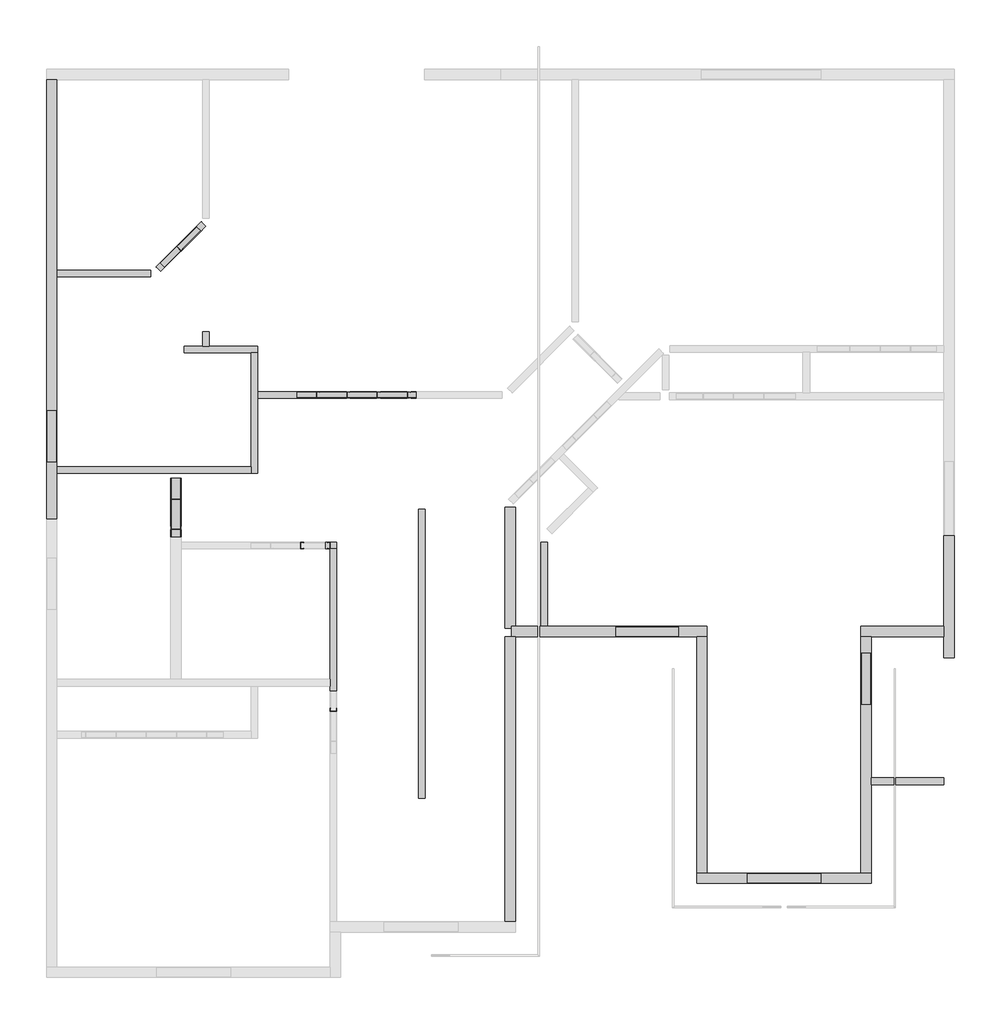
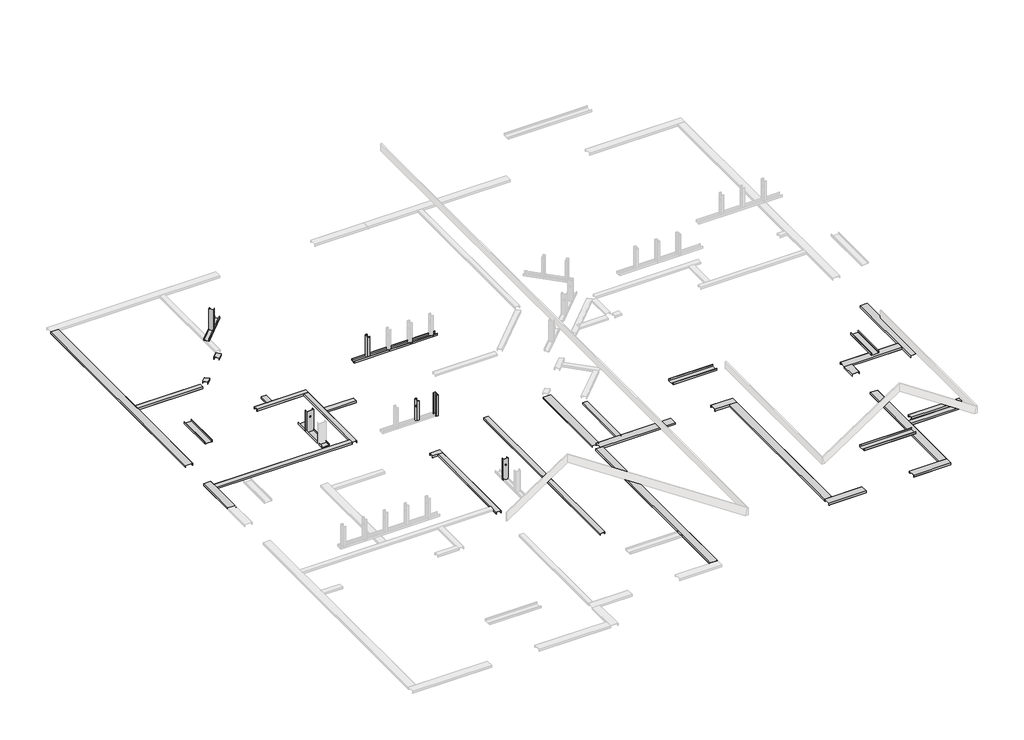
# One storey, part 2 of 4: 34 beams, 6 columns.
"""IFC4 building model written with IfcOpenShell, lengths in millimetres."""

from ifc_helpers import new_model, si_unit, point, frame, origin, place, context, project, spatial, circle_curve, ellipse_curve, trimmed, transform, mapped, element, save
from ifc_brep_helpers import plane_surface, extruded_surface, advanced_brep
from components import beam_350nf150_33_4bfafa5c, beam_350nf150_33_de9c2924, beam_350nf150_33_c7d518e1, beam_350nf150_33_13dd2c0c, beam_350nf150_33_2afbb7e6, beam_350nf150_33_87fa722b, beam_350nf150_33_34e1ec87, beam_350nf150_33_edcdebb8, beam_350nf150_33_a1fc3611, beam_350nf150_33_feebbda8, beam_350nf150_33_756c904e, beam_350nf150_33_cdc529ae, beam_350nf150_33_3c5b6d2f, beam_350nf150_33_eeb0c6a2, beam_350nf150_33_902c24ac, beam_550nf150_33_4c237a5f, beam_550nf150_33_e830eb72, beam_550nf150_33_a82aadf9, beam_550nf150_33_646c72d6, beam_550nf150_33_392b54dc, beam_550nf150_33_da6981cb, beam_550nf150_43_f91dca98, beam_550nf150_43_6e52a138, beam_550nf150_43_3208fb24, beam_550nf150_43_d5e1d725, beam_550nf150_43_b33204f9, beam_550nf150_43_2dc6aa5f, beam_550nf150_43_cb838aee, beam_550nf150_43_dee8239c, beam_550nf150_43_71bb0163, beam_550nf150_43_d8185aa4, column_350nf150_33_ca50317c

model = new_model("IFC4")

# Units and contexts
model_context = context("Model", 3, world=origin())
ifc_project = project(units=[si_unit("LENGTHUNIT", "METRE", prefix="MILLI")], contexts=[model_context])

# Site, building, storey
site = spatial("IfcSite", under=ifc_project)
building = spatial("IfcBuilding", under=site)
storey = spatial("IfcBuildingStorey", under=building, Name="H.H. Level 2", Elevation=5143.5)

# Beams
placement = place(None, origin())
beam_350nf150_33_shape = beam_350nf150_33_4bfafa5c(model_context)
element("IfcBeam", 1, ObjectType="BIMSF-SSMA-S : 350NF150-33", at=placement, inside=storey, context=model_context, shape_type="MappedRepresentation", body=[
    mapped(beam_350nf150_33_shape, transform((-11409.4913349, 6593.014721, 4292.61016), x_axis=(0.0, 1.0, 0.0), y_axis=(0.0, 0.0, 1.0), z_axis=(1.0, 0.0, 0.0))),
])
beam_350nf150_33_2_shape = beam_350nf150_33_de9c2924(model_context)
element("IfcBeam", 2, ObjectType="BIMSF-SSMA-S : 350NF150-33", at=placement, inside=storey, context=model_context, shape_type="MappedRepresentation", body=[
    mapped(beam_350nf150_33_2_shape, transform((-10222.0413349, 6158.4401581, 4292.61016), x_axis=(0.0, 1.0, 0.0), y_axis=(0.0, 0.0, 1.0), z_axis=(1.0, 0.0, 0.0))),
])
beam_350nf150_33_3_shape = beam_350nf150_33_c7d518e1(model_context)
element("IfcBeam", 3, ObjectType="BIMSF-SSMA-S : 350NF150-33", at=placement, inside=storey, context=model_context, shape_type="MappedRepresentation", body=[
    mapped(beam_350nf150_33_3_shape, transform((-13820.9038349, 8626.602221, 4292.61016), x_axis=(1.0, 0.0, 0.0), y_axis=(0.0, 0.0, 1.0), z_axis=(0.0, -1.0, 0.0))),
])
beam_350nf150_33_4_shape = beam_350nf150_33_13dd2c0c(model_context)
element("IfcBeam", 4, ObjectType="BIMSF-SSMA-S : 350NF150-33", at=placement, inside=storey, context=model_context, shape_type="MappedRepresentation", body=[
    mapped(beam_350nf150_33_4_shape, transform((-11462.6725849, 7610.602221, 4292.61016), x_axis=(1.0, 0.0, 0.0), y_axis=(0.0, 0.0, 1.0), z_axis=(0.0, -1.0, 0.0))),
])
beam_350nf150_33_5_shape = beam_350nf150_33_2afbb7e6(model_context)
element("IfcBeam", 5, ObjectType="BIMSF-SSMA-S : 350NF150-33", at=placement, inside=storey, context=model_context, shape_type="MappedRepresentation", body=[
    mapped(beam_350nf150_33_5_shape, transform((-12473.1163349, 9390.189721, 4292.61016), x_axis=(0.0, 1.0, 0.0), y_axis=(0.0, 0.0, 1.0), z_axis=(1.0, 0.0, 0.0))),
])
beam_350nf150_33_6_shape = beam_350nf150_33_87fa722b(model_context)
element("IfcBeam", 6, ObjectType="BIMSF-SSMA-S : 350NF150-33", at=placement, inside=storey, context=model_context, shape_type="MappedRepresentation", body=[
    mapped(beam_350nf150_33_6_shape, transform((-12921.6955722, 10242.677221, 4292.61016), x_axis=(-1.0, 0.0, 0.0), y_axis=(0.0, 0.0, 1.0), z_axis=(0.0, 1.0, 0.0))),
])
beam_350nf150_33_7_shape = beam_350nf150_33_34e1ec87(model_context)
element("IfcBeam", 7, ObjectType="BIMSF-SSMA-S : 350NF150-33", at=placement, inside=storey, context=model_context, shape_type="MappedRepresentation", body=[
    mapped(beam_350nf150_33_7_shape, transform((-12144.5038349, 9633.077221, 4292.61016), x_axis=(1.0, 0.0, 0.0), y_axis=(0.0, 0.0, 1.0), z_axis=(0.0, -1.0, 0.0))),
])
beam_350nf150_33_8_shape = beam_350nf150_33_edcdebb8(model_context)
element("IfcBeam", 8, ObjectType="BIMSF-SSMA-S : 350NF150-33", at=placement, inside=storey, context=model_context, shape_type="MappedRepresentation", body=[
    mapped(beam_350nf150_33_8_shape, transform((-11098.3413349, 9633.077221, 5111.75), x_axis=(1.0000000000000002, 0.0, 0.0), y_axis=(0.0, 0.0, -1.0000000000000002), z_axis=(0.0, 1.0000000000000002, 0.0))),
])
beam_350nf150_33_9_shape = beam_350nf150_33_a1fc3611(model_context)
element("IfcBeam", 9, ObjectType="BIMSF-SSMA-S : 350NF150-33", at=placement, inside=storey, context=model_context, shape_type="MappedRepresentation", body=[
    mapped(beam_350nf150_33_9_shape, transform((-14495.2231513, 11261.852221, 4292.61016), x_axis=(1.0, 0.0, 0.0), y_axis=(0.0, 0.0, 1.0), z_axis=(0.0, -1.0, 0.0))),
])
beam_350nf150_33_10_shape = beam_350nf150_33_feebbda8(model_context)
element("IfcBeam", 10, ObjectType="BIMSF-SSMA-S : 350NF150-33", at=placement, inside=storey, context=model_context, shape_type="MappedRepresentation", body=[
    mapped(beam_350nf150_33_10_shape, transform((-13720.4464533, 11363.1607353, 4292.61016), x_axis=(0.7071067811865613, 0.7071067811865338, 0.0), y_axis=(0.0, 0.0, 1.0), z_axis=(0.7071067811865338, -0.7071067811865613, 0.0))),
])
beam_350nf150_33_11_shape = beam_350nf150_33_756c904e(model_context)
element("IfcBeam", 11, ObjectType="BIMSF-SSMA-S : 350NF150-33", at=placement, inside=storey, context=model_context, shape_type="MappedRepresentation", body=[
    mapped(beam_350nf150_33_11_shape, transform((-13201.7816696, 11881.825519, 4292.61016), x_axis=(0.7071067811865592, 0.7071067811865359, 0.0), y_axis=(0.0, 0.0, 1.0), z_axis=(0.7071067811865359, -0.7071067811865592, 0.0))),
])
beam_350nf150_33_12_shape = beam_350nf150_33_cdc529ae(model_context)
element("IfcBeam", 12, ObjectType="BIMSF-SSMA-S : 350NF150-33", at=placement, inside=storey, context=model_context, shape_type="MappedRepresentation", body=[
    mapped(beam_350nf150_33_12_shape, transform((-13463.6672549, 11619.9399338, 5111.75), x_axis=(0.7071067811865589, 0.7071067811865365, 0.0), y_axis=(0.0, 0.0, -1.0000000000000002), z_axis=(-0.7071067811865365, 0.7071067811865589, 0.0))),
])
beam_350nf150_33_13_shape = beam_350nf150_33_3c5b6d2f(model_context)
element("IfcBeam", 13, ObjectType="BIMSF-SSMA-S : 350NF150-33", at=placement, inside=storey, context=model_context, shape_type="MappedRepresentation", body=[
    mapped(beam_350nf150_33_13_shape, transform((-13123.9913349, 10383.1422795, 4292.61016), x_axis=(0.0, -1.0, 0.0), y_axis=(0.0, 0.0, 1.0), z_axis=(-1.0, 0.0, 0.0))),
])
beam_350nf150_33_14_shape = beam_350nf150_33_eeb0c6a2(model_context)
element("IfcBeam", 14, ObjectType="BIMSF-SSMA-S : 350NF150-33", at=placement, inside=storey, context=model_context, shape_type="MappedRepresentation", body=[
    mapped(beam_350nf150_33_14_shape, transform((-8576.5652285, 7078.7104904, 4292.61016), x_axis=(0.0, -1.0, 0.0), y_axis=(0.0, 0.0, 1.0), z_axis=(-1.0, 0.0, 0.0))),
])
beam_350nf150_33_15_shape = beam_350nf150_33_902c24ac(model_context)
element("IfcBeam", 15, ObjectType="BIMSF-SSMA-S : 350NF150-33", at=placement, inside=storey, context=model_context, shape_type="MappedRepresentation", body=[
    mapped(beam_350nf150_33_15_shape, transform((-3698.2100849, 4446.714721, 4412.5518656), x_axis=(1.0, 0.0, 0.0), y_axis=(0.0, 0.0, 1.0), z_axis=(0.0, -1.0, 0.0))),
])
element("IfcBeam", 16, ObjectType="BIMSF-SSMA-S : 350NF150-33", at=placement, inside=storey, context=model_context, shape_type="MappedRepresentation", body=[
    mapped(beam_350nf150_33_15_shape, transform((-3698.2100849, 4446.714721, 4292.61016), x_axis=(1.0, 0.0, 0.0), y_axis=(0.0, 0.0, 1.0), z_axis=(0.0, -1.0, 0.0))),
])
beam_550nf150_33_shape = beam_550nf150_33_4c237a5f(model_context)
element("IfcBeam", 17, ObjectType="BIMSF-SSMA-S : 550NF150-33", at=placement, inside=storey, context=model_context, shape_type="MappedRepresentation", body=[
    mapped(beam_550nf150_33_shape, transform((-7195.4725849, 6454.902221, 5111.75), x_axis=(-1.0000000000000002, 0.0, 0.0), y_axis=(0.0, 0.0, -1.0000000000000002), z_axis=(0.0, -1.0000000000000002, 0.0))),
])
beam_550nf150_33_2_shape = beam_550nf150_33_e830eb72(model_context)
element("IfcBeam", 18, ObjectType="BIMSF-SSMA-S : 550NF150-33", at=placement, inside=storey, context=model_context, shape_type="MappedRepresentation", body=[
    mapped(beam_550nf150_33_2_shape, transform((-8297.9913349, 6454.902221, 4292.61016), x_axis=(-1.0, 0.0, 0.0), y_axis=(0.0, 0.0, 1.0), z_axis=(0.0, 1.0, 0.0))),
])
beam_550nf150_33_3_shape = beam_550nf150_33_a82aadf9(model_context)
element("IfcBeam", 19, ObjectType="BIMSF-SSMA-S : 550NF150-33", at=placement, inside=storey, context=model_context, shape_type="MappedRepresentation", body=[
    mapped(beam_550nf150_33_3_shape, transform((-3768.0600849, 6454.902221, 4292.61016), x_axis=(-1.0, 0.0, 0.0), y_axis=(0.0, 0.0, 1.0), z_axis=(0.0, 1.0, 0.0))),
])
beam_550nf150_33_4_shape = beam_550nf150_33_646c72d6(model_context)
element("IfcBeam", 20, ObjectType="BIMSF-SSMA-S : 550NF150-33", at=placement, inside=storey, context=model_context, shape_type="MappedRepresentation", body=[
    mapped(beam_550nf150_33_4_shape, transform((-6602.9382099, 6454.902221, 4292.61016), x_axis=(-1.0, 0.0, 0.0), y_axis=(0.0, 0.0, 1.0), z_axis=(0.0, 1.0, 0.0))),
])
beam_550nf150_33_5_shape = beam_550nf150_33_392b54dc(model_context)
element("IfcBeam", 21, ObjectType="BIMSF-SSMA-S : 550NF150-33", at=placement, inside=storey, context=model_context, shape_type="MappedRepresentation", body=[
    mapped(beam_550nf150_33_5_shape, transform((-13527.2163349, 8120.189721, 5111.75), x_axis=(0.0, 1.0000000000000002, 0.0), y_axis=(0.0, 0.0, -1.0000000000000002), z_axis=(-1.0000000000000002, 0.0, 0.0))),
])
beam_550nf150_33_6_shape = beam_550nf150_33_da6981cb(model_context)
element("IfcBeam", 22, ObjectType="BIMSF-SSMA-S : 550NF150-33", at=placement, inside=storey, context=model_context, shape_type="MappedRepresentation", body=[
    mapped(beam_550nf150_33_6_shape, transform((-9034.5913349, 7311.9569916, 4292.61016), x_axis=(0.0, 1.0, 0.0), y_axis=(0.0, 0.0, 1.0), z_axis=(1.0, 0.0, 0.0))),
])
beam_550nf150_43_shape = beam_550nf150_43_f91dca98(model_context)
element("IfcBeam", 23, ObjectType="BIMSF-SSMA-S : 550NF150-43", at=placement, inside=storey, context=model_context, shape_type="MappedRepresentation", body=[
    mapped(beam_550nf150_43_shape, transform((-5357.9413349, 3144.964721, 5162.55), x_axis=(-1.0000000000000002, 0.0, 0.0), y_axis=(0.0, 0.0, -1.0000000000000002), z_axis=(0.0, -1.0000000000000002, 0.0))),
])
beam_550nf150_43_2_shape = beam_550nf150_43_6e52a138(model_context)
element("IfcBeam", 24, ObjectType="BIMSF-SSMA-S : 550NF150-43", at=placement, inside=storey, context=model_context, shape_type="MappedRepresentation", body=[
    mapped(beam_550nf150_43_2_shape, transform((-4254.6288349, 5821.489721, 5111.75), x_axis=(0.0, -1.0000000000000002, 0.0), y_axis=(0.0, 0.0, -1.0000000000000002), z_axis=(1.0000000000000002, 0.0, 0.0))),
])
element("IfcBeam", 25, ObjectType="BIMSF-SSMA-S : 550NF150-43", at=placement, inside=storey, context=model_context, shape_type="MappedRepresentation", body=[
    mapped(beam_550nf150_43_2_shape, transform((-15194.0913349, 9077.6062273, 5162.55), x_axis=(0.0, 1.0000000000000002, 0.0), y_axis=(0.0, 0.0, -1.0000000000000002), z_axis=(-1.0000000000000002, 0.0, 0.0))),
])
beam_550nf150_43_3_shape = beam_550nf150_43_3208fb24(model_context)
element("IfcBeam", 26, ObjectType="BIMSF-SSMA-S : 550NF150-43", at=placement, inside=storey, context=model_context, shape_type="MappedRepresentation", body=[
    mapped(beam_550nf150_43_3_shape, transform((-3141.7913349, 6945.0623742, 4292.61016), x_axis=(0.0, -1.0, 0.0), y_axis=(0.0, 0.0, 1.0), z_axis=(-1.0, 0.0, 0.0))),
])
beam_550nf150_43_4_shape = beam_550nf150_43_d5e1d725(model_context)
element("IfcBeam", 27, ObjectType="BIMSF-SSMA-S : 550NF150-43", at=placement, inside=storey, context=model_context, shape_type="MappedRepresentation", body=[
    mapped(beam_550nf150_43_4_shape, transform((-15194.0913349, 8340.2595023, 4292.61016), x_axis=(0.0, 1.0, 0.0), y_axis=(0.0, 0.0, 1.0), z_axis=(1.0, 0.0, 0.0))),
])
beam_550nf150_43_5_shape = beam_550nf150_43_b33204f9(model_context)
element("IfcBeam", 28, ObjectType="BIMSF-SSMA-S : 550NF150-43", at=placement, inside=storey, context=model_context, shape_type="MappedRepresentation", body=[
    mapped(beam_550nf150_43_5_shape, transform((-4254.6288349, 6255.670971, 4292.61016), x_axis=(0.0, -1.0, 0.0), y_axis=(0.0, 0.0, 1.0), z_axis=(-1.0, 0.0, 0.0))),
])
beam_550nf150_43_6_shape = beam_550nf150_43_2dc6aa5f(model_context)
element("IfcBeam", 29, ObjectType="BIMSF-SSMA-S : 550NF150-43", at=placement, inside=storey, context=model_context, shape_type="MappedRepresentation", body=[
    mapped(beam_550nf150_43_6_shape, transform((-4254.6288349, 4365.752221, 4292.61016), x_axis=(0.0, -1.0, 0.0), y_axis=(0.0, 0.0, 1.0), z_axis=(-1.0, 0.0, 0.0))),
])
beam_550nf150_43_7_shape = beam_550nf150_43_cb838aee(model_context)
element("IfcBeam", 30, ObjectType="BIMSF-SSMA-S : 550NF150-43", at=placement, inside=storey, context=model_context, shape_type="MappedRepresentation", body=[
    mapped(beam_550nf150_43_7_shape, transform((-6461.2538349, 4799.933471, 4292.61016), x_axis=(0.0, 1.0, 0.0), y_axis=(0.0, 0.0, 1.0), z_axis=(1.0, 0.0, 0.0))),
])
beam_550nf150_43_8_shape = beam_550nf150_43_dee8239c(model_context)
element("IfcBeam", 31, ObjectType="BIMSF-SSMA-S : 550NF150-43", at=placement, inside=storey, context=model_context, shape_type="MappedRepresentation", body=[
    mapped(beam_550nf150_43_8_shape, transform((-4542.7600849, 3144.964721, 4292.61016), x_axis=(-1.0, 0.0, 0.0), y_axis=(0.0, 0.0, 1.0), z_axis=(0.0, 1.0, 0.0))),
])
element("IfcBeam", 32, ObjectType="BIMSF-SSMA-S : 550NF150-43", at=placement, inside=storey, context=model_context, shape_type="MappedRepresentation", body=[
    mapped(beam_550nf150_43_8_shape, transform((-6173.1225849, 3144.964721, 4292.61016), x_axis=(-1.0, 0.0, 0.0), y_axis=(0.0, 0.0, 1.0), z_axis=(0.0, 1.0, 0.0))),
])
beam_550nf150_43_9_shape = beam_550nf150_43_71bb0163(model_context)
element("IfcBeam", 33, ObjectType="BIMSF-SSMA-S : 550NF150-43", at=placement, inside=storey, context=model_context, shape_type="MappedRepresentation", body=[
    mapped(beam_550nf150_43_9_shape, transform((-9034.5913349, 4473.702221, 4292.61016), x_axis=(0.0, -1.0, 0.0), y_axis=(0.0, 0.0, 1.0), z_axis=(-1.0, 0.0, 0.0))),
])
beam_550nf150_43_10_shape = beam_550nf150_43_d8185aa4(model_context)
element("IfcBeam", 34, ObjectType="BIMSF-SSMA-S : 550NF150-43", at=placement, inside=storey, context=model_context, shape_type="MappedRepresentation", body=[
    mapped(beam_550nf150_43_10_shape, transform((-15194.0913349, 11623.8792241, 4292.61016), x_axis=(0.0, 1.0, 0.0), y_axis=(0.0, 0.0, 1.0), z_axis=(1.0, 0.0, 0.0))),
])

# Columns
element("IfcColumn", 35, ObjectType="BIMSF-SSMA-S-Column : 350NF150-33", at=placement, inside=storey, context=model_context, shape_type="AdvancedBrep", body=[
    advanced_brep(
    [(-11365.0413349, 5388.102221, 5096.7679688), (-11453.9413349, 5388.102221, 5096.7679688), (-11453.9413349, 5426.202221, 5096.7679688), (-11448.2838191, 5426.202221, 5096.7679688), (-11448.2838191, 5425.3199052, 5096.7679688), (-11453.0590191, 5425.3199052, 5096.7679688), (-11453.0590191, 5388.9845367, 5096.7679688), (-11365.9236507, 5388.9845367, 5096.7679688), (-11365.9236507, 5425.3199052, 5096.7679688), (-11370.6988507, 5425.3199052, 5096.7679688), (-11370.6988507, 5426.202221, 5096.7679688), (-11365.0413349, 5426.202221, 5096.7679688), (-11365.0413349, 5388.102221, 5523.6070313), (-11453.9413349, 5388.102221, 5523.6070313), (-11422.1913349, 5388.102221, 5401.5679688), (-11396.7913349, 5388.102221, 5401.5679688), (-11453.9413349, 5426.202221, 5523.6070313), (-11448.2838191, 5426.202221, 5523.6070313), (-11448.2838191, 5425.3199052, 5523.6070313), (-11453.0590191, 5425.3199052, 5523.6070313), (-11453.0590191, 5388.9845367, 5523.6070313), (-11365.9236507, 5388.9845367, 5523.6070313), (-11396.7913349, 5388.9845367, 5401.5679688), (-11422.1913349, 5388.9845367, 5401.5679688), (-11365.9236507, 5425.3199052, 5523.6070313), (-11370.6988507, 5425.3199052, 5523.6070313), (-11370.6988507, 5426.202221, 5523.6070313), (-11365.0413349, 5426.202221, 5523.6070313)],
    [
        (0, 1),
        (1, 2),
        (2, 3),
        (3, 4),
        (4, 5),
        (5, 6),
        (6, 7),
        (7, 8),
        (8, 9),
        (9, 10),
        (10, 11),
        (11, 0),
        (0, 12),
        (12, 13),
        (13, 1),
        (14, 15, circle_curve(frame((-11409.4913349, 5388.102221, 5401.5679688), z_axis=(0.0, 1.0, 0.0), x_axis=(-1.0, 0.0, 0.0)), 12.7)),
        (15, 14, circle_curve(frame((-11409.4913349, 5388.102221, 5401.5679688), z_axis=(0.0, 1.0, 0.0), x_axis=(-1.0, 0.0, 0.0)), 12.7)),
        (13, 16),
        (16, 2),
        (16, 17),
        (17, 3),
        (17, 18),
        (18, 4),
        (18, 19),
        (19, 5),
        (19, 20),
        (20, 6),
        (20, 21),
        (21, 7),
        (22, 23, circle_curve(frame((-11409.4913349, 5388.9845367, 5401.5679688), z_axis=(0.0, -1.0, 0.0), x_axis=(-1.0, 0.0, 0.0)), 12.7)),
        (23, 22, circle_curve(frame((-11409.4913349, 5388.9845367, 5401.5679688), z_axis=(0.0, -1.0, 0.0), x_axis=(-1.0, 0.0, 0.0)), 12.7)),
        (21, 24),
        (24, 8),
        (24, 25),
        (25, 9),
        (25, 26),
        (26, 10),
        (26, 27),
        (27, 11),
        (27, 12),
        (22, 15),
        (14, 23),
    ],
    [
        plane_surface(frame((-11365.0413349, 5388.102221, 5096.7679688), z_axis=(0.0, 0.0, -1.0), x_axis=(0.0, -1.0, 0.0))),
        plane_surface(frame((-11453.9413349, 5388.102221, 5523.6070313), z_axis=(0.0, -1.0, 0.0), x_axis=(0.0, 0.0, -1.0))),
        plane_surface(frame((-11453.9413349, 5426.202221, 5523.6070313), z_axis=(-1.0, 0.0, 0.0), x_axis=(0.0, 0.0, -1.0))),
        plane_surface(frame((-11448.2838191, 5426.202221, 5523.6070313), z_axis=(0.0, 1.0, 0.0), x_axis=(0.0, 0.0, -1.0))),
        plane_surface(frame((-11448.2838191, 5425.3199052, 5523.6070313), z_axis=(1.0, 0.0, 0.0), x_axis=(0.0, 0.0, -1.0))),
        plane_surface(frame((-11453.0590191, 5425.3199052, 5523.6070313), z_axis=(0.0, -1.0, 0.0), x_axis=(0.0, 0.0, -1.0))),
        plane_surface(frame((-11453.0590191, 5388.9845367, 5523.6070313), z_axis=(1.0, 0.0, 0.0), x_axis=(0.0, 0.0, -1.0))),
        plane_surface(frame((-11365.9236507, 5388.9845367, 5523.6070313), z_axis=(0.0, 1.0, 0.0), x_axis=(0.0, 0.0, -1.0))),
        plane_surface(frame((-11365.9236507, 5425.3199052, 5523.6070313), z_axis=(-1.0, 0.0, 0.0), x_axis=(0.0, 0.0, -1.0))),
        plane_surface(frame((-11370.6988507, 5425.3199052, 5523.6070313), z_axis=(0.0, -1.0, 0.0), x_axis=(0.0, 0.0, -1.0))),
        plane_surface(frame((-11370.6988507, 5426.202221, 5523.6070313), z_axis=(-1.0, 0.0, 0.0), x_axis=(0.0, 0.0, -1.0))),
        plane_surface(frame((-11365.0413349, 5426.202221, 5523.6070313), z_axis=(0.0, 1.0, 0.0), x_axis=(0.0, 0.0, -1.0))),
        plane_surface(frame((-11365.0413349, 5388.102221, 5523.6070313), z_axis=(1.0, 0.0, 0.0), x_axis=(0.0, 0.0, -1.0))),
        plane_surface(frame((-11365.0413349, 5388.102221, 5523.6070313), z_axis=(0.0, 0.0, 1.0), x_axis=(0.0, 1.0, 0.0))),
        extruded_surface(trimmed(ellipse_curve(frame((-11409.4913349, 5833.9912835, 5401.5679688), z_axis=(0.0, -1.0, 0.0), x_axis=(-1.0, 0.0, 0.0)), 12.7, 12.7), [point((-11396.7913349, 5833.9912835, 5401.5679688))], [point((-11422.1913349, 5833.9912835, 5401.5679688))], True, "CARTESIAN"), (0.0, 853.6781250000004, 0.0), 853.6781250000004),
        extruded_surface(trimmed(ellipse_curve(frame((-11409.4913349, 5833.9912835, 5401.5679688), z_axis=(0.0, -1.0, 0.0), x_axis=(-1.0, 0.0, 0.0)), 12.7, 12.7), [point((-11422.1913349, 5833.9912835, 5401.5679688))], [point((-11396.7913349, 5833.9912835, 5401.5679688))], True, "CARTESIAN"), (0.0, 853.6781250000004, 0.0), 853.6781250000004),
    ],
    [
        (0, [[1, 2, 3, 4, 5, 6, 7, 8, 9, 10, 11, 12]]),
        (1, [[-1, 13, 14, 15], [16, 17]]),
        (2, [[-2, -15, 18, 19]]),
        (3, [[-3, -19, 20, 21]]),
        (4, [[-4, -21, 22, 23]]),
        (5, [[-5, -23, 24, 25]]),
        (6, [[-6, -25, 26, 27]]),
        (7, [[-7, -27, 28, 29], [30, 31]]),
        (8, [[-8, -29, 32, 33]]),
        (9, [[-9, -33, 34, 35]]),
        (10, [[-10, -35, 36, 37]]),
        (11, [[-11, -37, 38, 39]]),
        (12, [[-12, -39, 40, -13]]),
        (13, [[-14, -40, -38, -36, -34, -32, -28, -26, -24, -22, -20, -18]]),
        (14, [[41, -16, 42, -30]]),
        (15, [[-41, -31, -42, -17]]),
    ],
),
])
element("IfcColumn", 36, ObjectType="BIMSF-SSMA-S-Column : 350NF150-33", at=placement, inside=storey, context=model_context, shape_type="AdvancedBrep", body=[
    advanced_brep(
    [(-11850.8163349, 7566.152221, 5096.7679688), (-11850.8163349, 7655.052221, 5096.7679688), (-11812.7163349, 7655.052221, 5096.7679688), (-11812.7163349, 7649.3947052, 5096.7679688), (-11813.5986507, 7649.3947052, 5096.7679688), (-11813.5986507, 7654.1699052, 5096.7679688), (-11849.9340191, 7654.1699052, 5096.7679688), (-11849.9340191, 7567.0345367, 5096.7679688), (-11813.5986507, 7567.0345367, 5096.7679688), (-11813.5986507, 7571.8097367, 5096.7679688), (-11812.7163349, 7571.8097367, 5096.7679688), (-11812.7163349, 7566.152221, 5096.7679688), (-11850.8163349, 7566.152221, 5523.6070313), (-11850.8163349, 7655.052221, 5523.6070313), (-11850.8163349, 7623.302221, 5401.5679688), (-11850.8163349, 7597.902221, 5401.5679688), (-11812.7163349, 7655.052221, 5523.6070313), (-11812.7163349, 7649.3947052, 5523.6070313), (-11813.5986507, 7649.3947052, 5523.6070313), (-11813.5986507, 7654.1699052, 5523.6070313), (-11849.9340191, 7654.1699052, 5523.6070313), (-11849.9340191, 7567.0345367, 5523.6070313), (-11849.9340191, 7597.902221, 5401.5679688), (-11849.9340191, 7623.302221, 5401.5679688), (-11813.5986507, 7567.0345367, 5523.6070313), (-11813.5986507, 7571.8097367, 5523.6070313), (-11812.7163349, 7571.8097367, 5523.6070313), (-11812.7163349, 7566.152221, 5523.6070313)],
    [
        (0, 1),
        (1, 2),
        (2, 3),
        (3, 4),
        (4, 5),
        (5, 6),
        (6, 7),
        (7, 8),
        (8, 9),
        (9, 10),
        (10, 11),
        (11, 0),
        (0, 12),
        (12, 13),
        (13, 1),
        (14, 15, circle_curve(frame((-11850.8163349, 7610.602221, 5401.5679688), z_axis=(1.0, 0.0, 0.0), x_axis=(0.0, 1.0, 0.0)), 12.7)),
        (15, 14, circle_curve(frame((-11850.8163349, 7610.602221, 5401.5679688), z_axis=(1.0, 0.0, 0.0), x_axis=(0.0, 1.0, 0.0)), 12.7)),
        (13, 16),
        (16, 2),
        (16, 17),
        (17, 3),
        (17, 18),
        (18, 4),
        (18, 19),
        (19, 5),
        (19, 20),
        (20, 6),
        (20, 21),
        (21, 7),
        (22, 23, circle_curve(frame((-11849.9340191, 7610.602221, 5401.5679688), z_axis=(-1.0, 0.0, 0.0), x_axis=(0.0, 1.0, 0.0)), 12.7)),
        (23, 22, circle_curve(frame((-11849.9340191, 7610.602221, 5401.5679688), z_axis=(-1.0, 0.0, 0.0), x_axis=(0.0, 1.0, 0.0)), 12.7)),
        (21, 24),
        (24, 8),
        (24, 25),
        (25, 9),
        (25, 26),
        (26, 10),
        (26, 27),
        (27, 11),
        (27, 12),
        (22, 15),
        (14, 23),
    ],
    [
        plane_surface(frame((-11850.8163349, 7566.152221, 5096.7679688), z_axis=(0.0, 0.0, -1.0), x_axis=(-1.0, 0.0, 0.0))),
        plane_surface(frame((-11850.8163349, 7655.052221, 5523.6070313), z_axis=(-1.0, 0.0, 0.0), x_axis=(0.0, 0.0, -1.0))),
        plane_surface(frame((-11812.7163349, 7655.052221, 5523.6070313), z_axis=(0.0, 1.0, 0.0), x_axis=(0.0, 0.0, -1.0))),
        plane_surface(frame((-11812.7163349, 7649.3947052, 5523.6070313), z_axis=(1.0, 0.0, 0.0), x_axis=(0.0, 0.0, -1.0))),
        plane_surface(frame((-11813.5986507, 7649.3947052, 5523.6070313), z_axis=(0.0, -1.0, 0.0), x_axis=(0.0, 0.0, -1.0))),
        plane_surface(frame((-11813.5986507, 7654.1699052, 5523.6070313), z_axis=(-1.0, 0.0, 0.0), x_axis=(0.0, 0.0, -1.0))),
        plane_surface(frame((-11849.9340191, 7654.1699052, 5523.6070313), z_axis=(0.0, -1.0, 0.0), x_axis=(0.0, 0.0, -1.0))),
        plane_surface(frame((-11849.9340191, 7567.0345367, 5523.6070313), z_axis=(1.0, 0.0, 0.0), x_axis=(0.0, 0.0, -1.0))),
        plane_surface(frame((-11813.5986507, 7567.0345367, 5523.6070313), z_axis=(0.0, 1.0, 0.0), x_axis=(0.0, 0.0, -1.0))),
        plane_surface(frame((-11813.5986507, 7571.8097367, 5523.6070313), z_axis=(-1.0, 0.0, 0.0), x_axis=(0.0, 0.0, -1.0))),
        plane_surface(frame((-11812.7163349, 7571.8097367, 5523.6070313), z_axis=(0.0, 1.0, 0.0), x_axis=(0.0, 0.0, -1.0))),
        plane_surface(frame((-11812.7163349, 7566.152221, 5523.6070313), z_axis=(1.0, 0.0, 0.0), x_axis=(0.0, 0.0, -1.0))),
        plane_surface(frame((-11850.8163349, 7566.152221, 5523.6070313), z_axis=(0.0, -1.0, 0.0), x_axis=(0.0, 0.0, -1.0))),
        plane_surface(frame((-11850.8163349, 7566.152221, 5523.6070313), z_axis=(0.0, 0.0, 1.0), x_axis=(1.0, 0.0, 0.0))),
        extruded_surface(trimmed(ellipse_curve(frame((-11404.9272724, 7610.602221, 5401.5679688), z_axis=(-1.0, 0.0, 0.0), x_axis=(0.0, 1.0, 0.0)), 12.7, 12.7), [point((-11404.9272724, 7597.902221, 5401.5679688))], [point((-11404.9272724, 7623.302221, 5401.5679688))], True, "CARTESIAN"), (853.6781250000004, 0.0, 0.0), 853.6781250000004),
        extruded_surface(trimmed(ellipse_curve(frame((-11404.9272724, 7610.602221, 5401.5679688), z_axis=(-1.0, 0.0, 0.0), x_axis=(0.0, 1.0, 0.0)), 12.7, 12.7), [point((-11404.9272724, 7623.302221, 5401.5679688))], [point((-11404.9272724, 7597.902221, 5401.5679688))], True, "CARTESIAN"), (853.6781250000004, 0.0, 0.0), 853.6781250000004),
    ],
    [
        (0, [[1, 2, 3, 4, 5, 6, 7, 8, 9, 10, 11, 12]]),
        (1, [[-1, 13, 14, 15], [16, 17]]),
        (2, [[-2, -15, 18, 19]]),
        (3, [[-3, -19, 20, 21]]),
        (4, [[-4, -21, 22, 23]]),
        (5, [[-5, -23, 24, 25]]),
        (6, [[-6, -25, 26, 27]]),
        (7, [[-7, -27, 28, 29], [30, 31]]),
        (8, [[-8, -29, 32, 33]]),
        (9, [[-9, -33, 34, 35]]),
        (10, [[-10, -35, 36, 37]]),
        (11, [[-11, -37, 38, 39]]),
        (12, [[-12, -39, 40, -13]]),
        (13, [[-14, -40, -38, -36, -34, -32, -28, -26, -24, -22, -20, -18]]),
        (14, [[41, -16, 42, -30]]),
        (15, [[-41, -31, -42, -17]]),
    ],
),
])
element("IfcColumn", 37, ObjectType="BIMSF-SSMA-S-Column : 350NF150-33", at=placement, inside=storey, context=model_context, shape_type="AdvancedBrep", body=[
    advanced_brep(
    [(-11453.9413349, 7655.052221, 5096.7679688), (-11453.9413349, 7566.152221, 5096.7679688), (-11492.0413349, 7566.152221, 5096.7679688), (-11492.0413349, 7571.8097367, 5096.7679688), (-11491.1590191, 7571.8097367, 5096.7679688), (-11491.1590191, 7567.0345367, 5096.7679688), (-11454.8236507, 7567.0345367, 5096.7679688), (-11454.8236507, 7654.1699052, 5096.7679688), (-11491.1590191, 7654.1699052, 5096.7679688), (-11491.1590191, 7649.3947052, 5096.7679688), (-11492.0413349, 7649.3947052, 5096.7679688), (-11492.0413349, 7655.052221, 5096.7679688), (-11453.9413349, 7655.052221, 5523.6070313), (-11453.9413349, 7566.152221, 5523.6070313), (-11453.9413349, 7597.902221, 5401.5679688), (-11453.9413349, 7623.302221, 5401.5679688), (-11492.0413349, 7566.152221, 5523.6070313), (-11492.0413349, 7571.8097367, 5523.6070313), (-11491.1590191, 7571.8097367, 5523.6070313), (-11491.1590191, 7567.0345367, 5523.6070313), (-11454.8236507, 7567.0345367, 5523.6070313), (-11454.8236507, 7654.1699052, 5523.6070313), (-11454.8236507, 7623.302221, 5401.5679688), (-11454.8236507, 7597.902221, 5401.5679688), (-11491.1590191, 7654.1699052, 5523.6070313), (-11491.1590191, 7649.3947052, 5523.6070313), (-11492.0413349, 7649.3947052, 5523.6070313), (-11492.0413349, 7655.052221, 5523.6070313)],
    [
        (0, 1),
        (1, 2),
        (2, 3),
        (3, 4),
        (4, 5),
        (5, 6),
        (6, 7),
        (7, 8),
        (8, 9),
        (9, 10),
        (10, 11),
        (11, 0),
        (0, 12),
        (12, 13),
        (13, 1),
        (14, 15, circle_curve(frame((-11453.9413349, 7610.602221, 5401.5679688), z_axis=(-1.0, 0.0, 0.0), x_axis=(0.0, -1.0, 0.0)), 12.7)),
        (15, 14, circle_curve(frame((-11453.9413349, 7610.602221, 5401.5679688), z_axis=(-1.0, 0.0, 0.0), x_axis=(0.0, -1.0, 0.0)), 12.7)),
        (13, 16),
        (16, 2),
        (16, 17),
        (17, 3),
        (17, 18),
        (18, 4),
        (18, 19),
        (19, 5),
        (19, 20),
        (20, 6),
        (20, 21),
        (21, 7),
        (22, 23, circle_curve(frame((-11454.8236507, 7610.602221, 5401.5679688), z_axis=(1.0, 0.0, 0.0), x_axis=(0.0, -1.0, 0.0)), 12.7)),
        (23, 22, circle_curve(frame((-11454.8236507, 7610.602221, 5401.5679688), z_axis=(1.0, 0.0, 0.0), x_axis=(0.0, -1.0, 0.0)), 12.7)),
        (21, 24),
        (24, 8),
        (24, 25),
        (25, 9),
        (25, 26),
        (26, 10),
        (26, 27),
        (27, 11),
        (27, 12),
        (22, 15),
        (14, 23),
    ],
    [
        plane_surface(frame((-11453.9413349, 7655.052221, 5096.7679688), z_axis=(0.0, 0.0, -1.0), x_axis=(1.0, 0.0, 0.0))),
        plane_surface(frame((-11453.9413349, 7566.152221, 5523.6070313), z_axis=(1.0, 0.0, 0.0), x_axis=(0.0, 0.0, -1.0))),
        plane_surface(frame((-11492.0413349, 7566.152221, 5523.6070313), z_axis=(0.0, -1.0, 0.0), x_axis=(0.0, 0.0, -1.0))),
        plane_surface(frame((-11492.0413349, 7571.8097367, 5523.6070313), z_axis=(-1.0, 0.0, 0.0), x_axis=(0.0, 0.0, -1.0))),
        plane_surface(frame((-11491.1590191, 7571.8097367, 5523.6070313), z_axis=(0.0, 1.0, 0.0), x_axis=(0.0, 0.0, -1.0))),
        plane_surface(frame((-11491.1590191, 7567.0345367, 5523.6070313), z_axis=(1.0, 0.0, 0.0), x_axis=(0.0, 0.0, -1.0))),
        plane_surface(frame((-11454.8236507, 7567.0345367, 5523.6070313), z_axis=(0.0, 1.0, 0.0), x_axis=(0.0, 0.0, -1.0))),
        plane_surface(frame((-11454.8236507, 7654.1699052, 5523.6070313), z_axis=(-1.0, 0.0, 0.0), x_axis=(0.0, 0.0, -1.0))),
        plane_surface(frame((-11491.1590191, 7654.1699052, 5523.6070313), z_axis=(0.0, -1.0, 0.0), x_axis=(0.0, 0.0, -1.0))),
        plane_surface(frame((-11491.1590191, 7649.3947052, 5523.6070313), z_axis=(1.0, 0.0, 0.0), x_axis=(0.0, 0.0, -1.0))),
        plane_surface(frame((-11492.0413349, 7649.3947052, 5523.6070313), z_axis=(0.0, -1.0, 0.0), x_axis=(0.0, 0.0, -1.0))),
        plane_surface(frame((-11492.0413349, 7655.052221, 5523.6070313), z_axis=(-1.0, 0.0, 0.0), x_axis=(0.0, 0.0, -1.0))),
        plane_surface(frame((-11453.9413349, 7655.052221, 5523.6070313), z_axis=(0.0, 1.0, 0.0), x_axis=(0.0, 0.0, -1.0))),
        plane_surface(frame((-11453.9413349, 7655.052221, 5523.6070313), z_axis=(0.0, 0.0, 1.0), x_axis=(-1.0, 0.0, 0.0))),
        extruded_surface(trimmed(ellipse_curve(frame((-11899.8303974, 7610.602221, 5401.5679688), z_axis=(1.0, 0.0, 0.0), x_axis=(0.0, -1.0, 0.0)), 12.7, 12.7), [point((-11899.8303974, 7623.302221, 5401.5679688))], [point((-11899.8303974, 7597.902221, 5401.5679688))], True, "CARTESIAN"), (-853.6781250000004, 0.0, 0.0), 853.6781250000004),
        extruded_surface(trimmed(ellipse_curve(frame((-11899.8303974, 7610.602221, 5401.5679688), z_axis=(1.0, 0.0, 0.0), x_axis=(0.0, -1.0, 0.0)), 12.7, 12.7), [point((-11899.8303974, 7597.902221, 5401.5679688))], [point((-11899.8303974, 7623.302221, 5401.5679688))], True, "CARTESIAN"), (-853.6781250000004, 0.0, 0.0), 853.6781250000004),
    ],
    [
        (0, [[1, 2, 3, 4, 5, 6, 7, 8, 9, 10, 11, 12]]),
        (1, [[-1, 13, 14, 15], [16, 17]]),
        (2, [[-2, -15, 18, 19]]),
        (3, [[-3, -19, 20, 21]]),
        (4, [[-4, -21, 22, 23]]),
        (5, [[-5, -23, 24, 25]]),
        (6, [[-6, -25, 26, 27]]),
        (7, [[-7, -27, 28, 29], [30, 31]]),
        (8, [[-8, -29, 32, 33]]),
        (9, [[-9, -33, 34, 35]]),
        (10, [[-10, -35, 36, 37]]),
        (11, [[-11, -37, 38, 39]]),
        (12, [[-12, -39, 40, -13]]),
        (13, [[-14, -40, -38, -36, -34, -32, -28, -26, -24, -22, -20, -18]]),
        (14, [[41, -16, 42, -30]]),
        (15, [[-41, -31, -42, -17]]),
    ],
),
])
column_350nf150_33_shape = column_350nf150_33_ca50317c(model_context)
element("IfcColumn", 38, ObjectType="BIMSF-SSMA-S-Column : 350NF150-33", at=placement, inside=storey, context=model_context, shape_type="MappedRepresentation", body=[
    mapped(column_350nf150_33_shape, transform((-11622.9185471, 9643.8143459, 0.0), x_axis=(1.0, 0.0, 0.0), y_axis=(0.0, 1.0, 0.0), z_axis=(0.0, 0.0, 1.0))),
])
element("IfcColumn", 39, ObjectType="BIMSF-SSMA-S-Column : 350NF150-33", at=placement, inside=storey, context=model_context, shape_type="MappedRepresentation", body=[
    mapped(column_350nf150_33_shape, transform((-13486.91027, 11611.8815064, 0.0), x_axis=(0.7071067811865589, 0.7071067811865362, 0.0), y_axis=(-0.7071067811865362, 0.7071067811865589, 0.0), z_axis=(0.0, 0.0, 1.0))),
])
element("IfcColumn", 40, ObjectType="BIMSF-SSMA-S-Column : 550NF150-33", at=placement, inside=storey, context=model_context, shape_type="AdvancedBrep", body=[
    advanced_brep(
    [(-13457.3663349, 8232.902221, 5096.7679688), (-13597.0663349, 8232.902221, 5096.7679688), (-13597.0663349, 8271.002221, 5096.7679688), (-13591.4088191, 8271.002221, 5096.7679688), (-13591.4088191, 8270.1199052, 5096.7679688), (-13596.1840191, 8270.1199052, 5096.7679688), (-13596.1840191, 8233.7845367, 5096.7679688), (-13458.2486507, 8233.7845367, 5096.7679688), (-13458.2486507, 8270.1199052, 5096.7679688), (-13463.0238507, 8270.1199052, 5096.7679688), (-13463.0238507, 8271.002221, 5096.7679688), (-13457.3663349, 8271.002221, 5096.7679688), (-13457.3663349, 8232.902221, 5523.6070313), (-13597.0663349, 8232.902221, 5523.6070313), (-13539.9163349, 8232.902221, 5401.5679688), (-13514.5163349, 8232.902221, 5401.5679688), (-13597.0663349, 8271.002221, 5523.6070313), (-13591.4088191, 8271.002221, 5523.6070313), (-13591.4088191, 8270.1199052, 5523.6070313), (-13596.1840191, 8270.1199052, 5523.6070313), (-13596.1840191, 8233.7845367, 5523.6070313), (-13458.2486507, 8233.7845367, 5523.6070313), (-13514.5163349, 8233.7845367, 5401.5679688), (-13539.9163349, 8233.7845367, 5401.5679688), (-13458.2486507, 8270.1199052, 5523.6070313), (-13463.0238507, 8270.1199052, 5523.6070313), (-13463.0238507, 8271.002221, 5523.6070313), (-13457.3663349, 8271.002221, 5523.6070313)],
    [
        (0, 1),
        (1, 2),
        (2, 3),
        (3, 4),
        (4, 5),
        (5, 6),
        (6, 7),
        (7, 8),
        (8, 9),
        (9, 10),
        (10, 11),
        (11, 0),
        (0, 12),
        (12, 13),
        (13, 1),
        (14, 15, circle_curve(frame((-13527.2163349, 8232.902221, 5401.5679688), z_axis=(0.0, 1.0, 0.0), x_axis=(-1.0, 0.0, 0.0)), 12.7)),
        (15, 14, circle_curve(frame((-13527.2163349, 8232.902221, 5401.5679688), z_axis=(0.0, 1.0, 0.0), x_axis=(-1.0, 0.0, 0.0)), 12.7)),
        (13, 16),
        (16, 2),
        (16, 17),
        (17, 3),
        (17, 18),
        (18, 4),
        (18, 19),
        (19, 5),
        (19, 20),
        (20, 6),
        (20, 21),
        (21, 7),
        (22, 23, circle_curve(frame((-13527.2163349, 8233.7845367, 5401.5679688), z_axis=(0.0, -1.0, 0.0), x_axis=(-1.0, 0.0, 0.0)), 12.7)),
        (23, 22, circle_curve(frame((-13527.2163349, 8233.7845367, 5401.5679688), z_axis=(0.0, -1.0, 0.0), x_axis=(-1.0, 0.0, 0.0)), 12.7)),
        (21, 24),
        (24, 8),
        (24, 25),
        (25, 9),
        (25, 26),
        (26, 10),
        (26, 27),
        (27, 11),
        (27, 12),
        (22, 15),
        (14, 23),
    ],
    [
        plane_surface(frame((-13457.3663349, 8232.902221, 5096.7679688), z_axis=(0.0, 0.0, -1.0), x_axis=(0.0, -1.0, 0.0))),
        plane_surface(frame((-13597.0663349, 8232.902221, 5523.6070313), z_axis=(0.0, -1.0, 0.0), x_axis=(0.0, 0.0, -1.0))),
        plane_surface(frame((-13597.0663349, 8271.002221, 5523.6070313), z_axis=(-1.0, 0.0, 0.0), x_axis=(0.0, 0.0, -1.0))),
        plane_surface(frame((-13591.4088191, 8271.002221, 5523.6070313), z_axis=(0.0, 1.0, 0.0), x_axis=(0.0, 0.0, -1.0))),
        plane_surface(frame((-13591.4088191, 8270.1199052, 5523.6070313), z_axis=(1.0, 0.0, 0.0), x_axis=(0.0, 0.0, -1.0))),
        plane_surface(frame((-13596.1840191, 8270.1199052, 5523.6070313), z_axis=(0.0, -1.0, 0.0), x_axis=(0.0, 0.0, -1.0))),
        plane_surface(frame((-13596.1840191, 8233.7845367, 5523.6070313), z_axis=(1.0, 0.0, 0.0), x_axis=(0.0, 0.0, -1.0))),
        plane_surface(frame((-13458.2486507, 8233.7845367, 5523.6070313), z_axis=(0.0, 1.0, 0.0), x_axis=(0.0, 0.0, -1.0))),
        plane_surface(frame((-13458.2486507, 8270.1199052, 5523.6070313), z_axis=(-1.0, 0.0, 0.0), x_axis=(0.0, 0.0, -1.0))),
        plane_surface(frame((-13463.0238507, 8270.1199052, 5523.6070313), z_axis=(0.0, -1.0, 0.0), x_axis=(0.0, 0.0, -1.0))),
        plane_surface(frame((-13463.0238507, 8271.002221, 5523.6070313), z_axis=(-1.0, 0.0, 0.0), x_axis=(0.0, 0.0, -1.0))),
        plane_surface(frame((-13457.3663349, 8271.002221, 5523.6070313), z_axis=(0.0, 1.0, 0.0), x_axis=(0.0, 0.0, -1.0))),
        plane_surface(frame((-13457.3663349, 8232.902221, 5523.6070313), z_axis=(1.0, 0.0, 0.0), x_axis=(0.0, 0.0, -1.0))),
        plane_surface(frame((-13457.3663349, 8232.902221, 5523.6070313), z_axis=(0.0, 0.0, 1.0), x_axis=(0.0, 1.0, 0.0))),
        extruded_surface(trimmed(ellipse_curve(frame((-13527.2163349, 8678.7912835, 5401.5679688), z_axis=(0.0, -1.0, 0.0), x_axis=(-1.0, 0.0, 0.0)), 12.7, 12.7), [point((-13514.5163349, 8678.7912835, 5401.5679688))], [point((-13539.9163349, 8678.7912835, 5401.5679688))], True, "CARTESIAN"), (0.0, 853.6781249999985, 0.0), 853.6781249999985),
        extruded_surface(trimmed(ellipse_curve(frame((-13527.2163349, 8678.7912835, 5401.5679688), z_axis=(0.0, -1.0, 0.0), x_axis=(-1.0, 0.0, 0.0)), 12.7, 12.7), [point((-13539.9163349, 8678.7912835, 5401.5679688))], [point((-13514.5163349, 8678.7912835, 5401.5679688))], True, "CARTESIAN"), (0.0, 853.6781249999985, 0.0), 853.6781249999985),
    ],
    [
        (0, [[1, 2, 3, 4, 5, 6, 7, 8, 9, 10, 11, 12]]),
        (1, [[-1, 13, 14, 15], [16, 17]]),
        (2, [[-2, -15, 18, 19]]),
        (3, [[-3, -19, 20, 21]]),
        (4, [[-4, -21, 22, 23]]),
        (5, [[-5, -23, 24, 25]]),
        (6, [[-6, -25, 26, 27]]),
        (7, [[-7, -27, 28, 29], [30, 31]]),
        (8, [[-8, -29, 32, 33]]),
        (9, [[-9, -33, 34, 35]]),
        (10, [[-10, -35, 36, 37]]),
        (11, [[-11, -37, 38, 39]]),
        (12, [[-12, -39, 40, -13]]),
        (13, [[-14, -40, -38, -36, -34, -32, -28, -26, -24, -22, -20, -18]]),
        (14, [[41, -16, 42, -30]]),
        (15, [[-41, -31, -42, -17]]),
    ],
),
])

save(model, "model.ifc")
